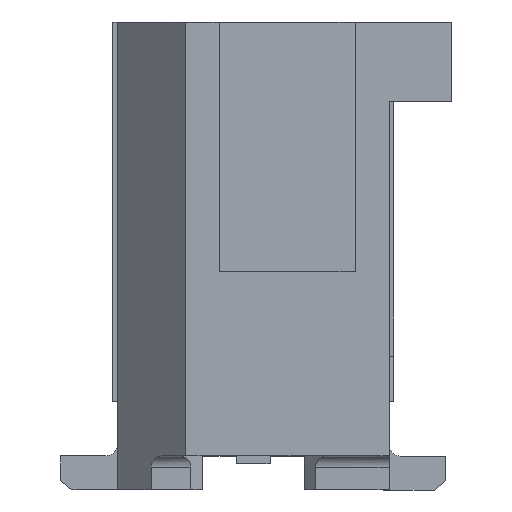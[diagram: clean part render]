
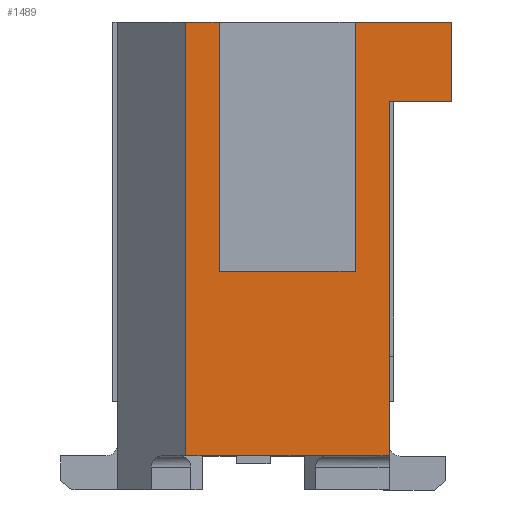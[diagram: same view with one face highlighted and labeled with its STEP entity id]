
A CAD part, left-side view. The second image highlights one B-rep face of the part: STEP entity #1489.
In plain terms, the highlighted planar face has unit normal (-1, 0, 0).
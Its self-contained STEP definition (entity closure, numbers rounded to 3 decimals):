
#1423=AXIS2_PLACEMENT_3D('Plane Axis2P3D',#1420,#1421,#1422) ;
#258=CARTESIAN_POINT('Vertex',(-4.55,-0.64,4.13)) ;
#261=CARTESIAN_POINT('Line Origine',(-4.55,-0.79,4.13)) ;
#265=CARTESIAN_POINT('Vertex',(-4.55,-0.94,4.13)) ;
#286=CARTESIAN_POINT('Vertex',(-4.55,-2.14,4.13)) ;
#289=CARTESIAN_POINT('Line Origine',(-4.55,-2.565,4.13)) ;
#293=CARTESIAN_POINT('Vertex',(-4.55,-2.99,4.13)) ;
#1087=CARTESIAN_POINT('Vertex',(-4.55,-2.99,3.43)) ;
#1092=CARTESIAN_POINT('Line Origine',(-4.55,-2.715,3.43)) ;
#1096=CARTESIAN_POINT('Vertex',(-4.55,-2.44,3.43)) ;
#1390=CARTESIAN_POINT('Vertex',(-4.55,-0.64,0.299)) ;
#1393=CARTESIAN_POINT('Line Origine',(-4.55,-0.64,2.215)) ;
#1420=CARTESIAN_POINT('Axis2P3D Location',(-4.55,-0.64,0.)) ;
#1425=CARTESIAN_POINT('Line Origine',(-4.55,-2.99,3.78)) ;
#1430=CARTESIAN_POINT('Line Origine',(-4.55,-2.14,3.03)) ;
#1434=CARTESIAN_POINT('Vertex',(-4.55,-2.14,1.93)) ;
#1437=CARTESIAN_POINT('Line Origine',(-4.55,-1.54,1.93)) ;
#1441=CARTESIAN_POINT('Vertex',(-4.55,-0.94,1.93)) ;
#1444=CARTESIAN_POINT('Line Origine',(-4.55,-0.94,3.03)) ;
#1449=CARTESIAN_POINT('Line Origine',(-4.55,-0.715,0.299)) ;
#1453=CARTESIAN_POINT('Vertex',(-4.55,-0.79,0.299)) ;
#1456=CARTESIAN_POINT('Line Origine',(-4.55,-1.24,0.3)) ;
#1460=CARTESIAN_POINT('Vertex',(-4.55,-1.69,0.3)) ;
#1463=CARTESIAN_POINT('Line Origine',(-4.55,-2.065,0.299)) ;
#1467=CARTESIAN_POINT('Vertex',(-4.55,-2.44,0.299)) ;
#1470=CARTESIAN_POINT('Line Origine',(-4.55,-2.44,1.865)) ;
#262=DIRECTION('Vector Direction',(0.,-1.,0.)) ;
#290=DIRECTION('Vector Direction',(0.,-1.,0.)) ;
#1093=DIRECTION('Vector Direction',(0.,1.,0.)) ;
#1394=DIRECTION('Vector Direction',(0.,0.,1.)) ;
#1421=DIRECTION('Axis2P3D Direction',(-1.,0.,0.)) ;
#1422=DIRECTION('Axis2P3D XDirection',(0.,-1.,0.)) ;
#1426=DIRECTION('Vector Direction',(0.,0.,1.)) ;
#1431=DIRECTION('Vector Direction',(0.,0.,-1.)) ;
#1438=DIRECTION('Vector Direction',(0.,1.,0.)) ;
#1445=DIRECTION('Vector Direction',(0.,0.,-1.)) ;
#1450=DIRECTION('Vector Direction',(0.,-1.,0.)) ;
#1457=DIRECTION('Vector Direction',(0.,-1.,0.)) ;
#1464=DIRECTION('Vector Direction',(0.,-1.,0.)) ;
#1471=DIRECTION('Vector Direction',(0.,0.,-1.)) ;
#263=VECTOR('Line Direction',#262,1.) ;
#291=VECTOR('Line Direction',#290,1.) ;
#1094=VECTOR('Line Direction',#1093,1.) ;
#1395=VECTOR('Line Direction',#1394,1.) ;
#1427=VECTOR('Line Direction',#1426,1.) ;
#1432=VECTOR('Line Direction',#1431,1.) ;
#1439=VECTOR('Line Direction',#1438,1.) ;
#1446=VECTOR('Line Direction',#1445,1.) ;
#1451=VECTOR('Line Direction',#1450,1.) ;
#1458=VECTOR('Line Direction',#1457,1.) ;
#1465=VECTOR('Line Direction',#1464,1.) ;
#1472=VECTOR('Line Direction',#1471,1.) ;
#1476=ORIENTED_EDGE('',*,*,#1098,.F.) ;
#1477=ORIENTED_EDGE('',*,*,#1429,.T.) ;
#1478=ORIENTED_EDGE('',*,*,#295,.F.) ;
#1479=ORIENTED_EDGE('',*,*,#1436,.T.) ;
#1480=ORIENTED_EDGE('',*,*,#1443,.F.) ;
#1481=ORIENTED_EDGE('',*,*,#1448,.F.) ;
#1482=ORIENTED_EDGE('',*,*,#267,.F.) ;
#1483=ORIENTED_EDGE('',*,*,#1397,.F.) ;
#1484=ORIENTED_EDGE('',*,*,#1455,.T.) ;
#1485=ORIENTED_EDGE('',*,*,#1462,.T.) ;
#1486=ORIENTED_EDGE('',*,*,#1469,.T.) ;
#1487=ORIENTED_EDGE('',*,*,#1474,.F.) ;
#1489=ADVANCED_FACE('INSULATOR-(BJF 6244603)',(#1488),#1424,.T.) ;
#267=EDGE_CURVE('',#259,#266,#264,.T.) ;
#295=EDGE_CURVE('',#287,#294,#292,.T.) ;
#1098=EDGE_CURVE('',#1088,#1097,#1095,.T.) ;
#1397=EDGE_CURVE('',#1391,#259,#1396,.T.) ;
#1429=EDGE_CURVE('',#1088,#294,#1428,.T.) ;
#1436=EDGE_CURVE('',#287,#1435,#1433,.T.) ;
#1443=EDGE_CURVE('',#1442,#1435,#1440,.F.) ;
#1448=EDGE_CURVE('',#266,#1442,#1447,.T.) ;
#1455=EDGE_CURVE('',#1391,#1454,#1452,.T.) ;
#1462=EDGE_CURVE('',#1454,#1461,#1459,.T.) ;
#1469=EDGE_CURVE('',#1461,#1468,#1466,.T.) ;
#1474=EDGE_CURVE('',#1097,#1468,#1473,.T.) ;
#1475=EDGE_LOOP('',(#1476,#1477,#1478,#1479,#1480,#1481,#1482,#1483,#1484,#1485,#1486,#1487)) ;
#1488=FACE_OUTER_BOUND('',#1475,.T.) ;
#264=LINE('Line',#261,#263) ;
#292=LINE('Line',#289,#291) ;
#1095=LINE('Line',#1092,#1094) ;
#1396=LINE('Line',#1393,#1395) ;
#1428=LINE('Line',#1425,#1427) ;
#1433=LINE('Line',#1430,#1432) ;
#1440=LINE('Line',#1437,#1439) ;
#1447=LINE('Line',#1444,#1446) ;
#1452=LINE('Line',#1449,#1451) ;
#1459=LINE('Line',#1456,#1458) ;
#1466=LINE('Line',#1463,#1465) ;
#1473=LINE('Line',#1470,#1472) ;
#1424=PLANE('Plane',#1423) ;
#259=VERTEX_POINT('',#258) ;
#266=VERTEX_POINT('',#265) ;
#287=VERTEX_POINT('',#286) ;
#294=VERTEX_POINT('',#293) ;
#1088=VERTEX_POINT('',#1087) ;
#1097=VERTEX_POINT('',#1096) ;
#1391=VERTEX_POINT('',#1390) ;
#1435=VERTEX_POINT('',#1434) ;
#1442=VERTEX_POINT('',#1441) ;
#1454=VERTEX_POINT('',#1453) ;
#1461=VERTEX_POINT('',#1460) ;
#1468=VERTEX_POINT('',#1467) ;
